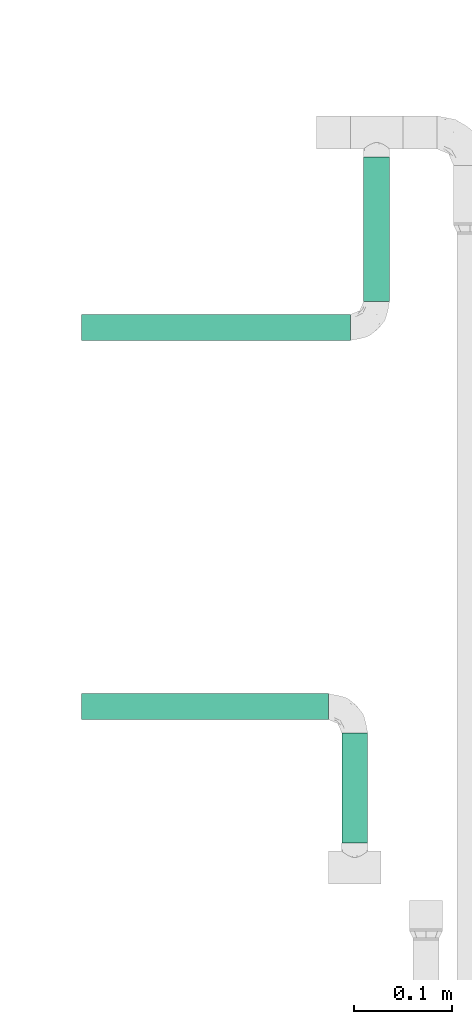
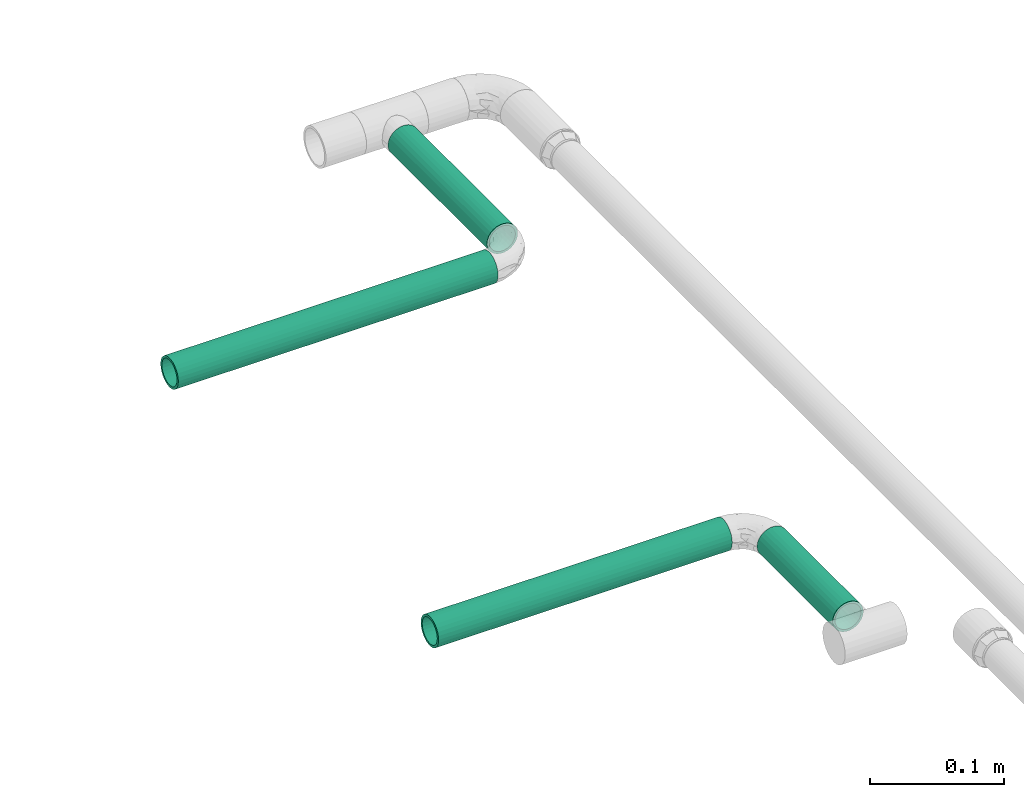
# One storey, part 3 of 13: 4 flow segments.
"""IFC2X3 building model written with IfcOpenShell, lengths in millimetres."""

from ifc_helpers import new_model, entity, si_unit, converted_unit, derived_unit, direction, frame, origin_with_axes, origin_2d_with_axis, place, context, subcontext, project, spatial, hollow_circle, extrude, source, transform, mapped, type_object, element, save


model = new_model("IFC2X3")

# Units and contexts
model_context = context("Model", 3, precision=0.01, world=frame((0.0, 4.29681676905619e-09, 0.0)), true_north=direction((4.01073788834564e-13, 1.0)))
plan_context = context("Plan", 3, precision=0.01, world=frame((0.0, 4.29681676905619e-09, 0.0)), true_north=direction((4.01073788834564e-13, 1.0)))
body_context = subcontext(model_context, "Body", "Model", "MODEL_VIEW")
ifc_project = project(units=[converted_unit("PLANEANGLEUNIT", "DEGREE", entity("IfcPositiveLengthMeasure", 0.0174532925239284), si_unit("PLANEANGLEUNIT", "RADIAN"), dimensions=[0, 0, 0, 0, 0, 0, 0]), si_unit("AREAUNIT", "SQUARE_METRE"), si_unit("LENGTHUNIT", "METRE", prefix="MILLI"), si_unit("MASSUNIT", "GRAM", prefix="KILO"), si_unit("POWERUNIT", "WATT"), si_unit("PRESSUREUNIT", "PASCAL", prefix="KILO"), si_unit("FORCEUNIT", "NEWTON", prefix="KILO"), si_unit("ELECTRICVOLTAGEUNIT", "VOLT"), si_unit("ELECTRICCURRENTUNIT", "AMPERE"), si_unit("THERMODYNAMICTEMPERATUREUNIT", "DEGREE_CELSIUS"), si_unit("TIMEUNIT", "SECOND"), si_unit("VOLUMEUNIT", "CUBIC_METRE"), derived_unit("LINEARVELOCITYUNIT", [(si_unit("LENGTHUNIT", "METRE"), 1), (si_unit("TIMEUNIT", "SECOND"), -1)]), derived_unit("VOLUMETRICFLOWRATEUNIT", [(si_unit("VOLUMEUNIT", "CUBIC_METRE"), 1), (si_unit("TIMEUNIT", "SECOND"), -1)]), derived_unit("THERMALTRANSMITTANCEUNIT", [(si_unit("POWERUNIT", "WATT"), 1), (si_unit("THERMODYNAMICTEMPERATUREUNIT", "KELVIN"), -1), (si_unit("AREAUNIT", "SQUARE_METRE"), -1)]), derived_unit("SOUNDPRESSUREUNIT", [(si_unit("PRESSUREUNIT", "PASCAL"), 1)])], contexts=[model_context, plan_context])

# Site, building, storey
site_placement = place(None, frame((0.0, -4.29681676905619e-09, 0.0), z_axis=(0.0, 0.0, 1.0), x_axis=(1.0, 0.0, 0.0)))
site = spatial("IfcSite", under=ifc_project, at=site_placement, Name="ENGM", CompositionType="ELEMENT")
building_placement = place(site_placement, frame((0.0, 4.29681676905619e-09, 0.0), z_axis=(0.0, 0.0, 1.0), x_axis=(1.0, 0.0, 0.0)))
building = spatial("IfcBuilding", under=site, at=building_placement, Name="TI", CompositionType="ELEMENT")
storey_placement = place(building_placement, frame((0.0, 0.0, 210900.0), z_axis=(0.0, 0.0, 1.0), x_axis=(1.0, 0.0, 0.0)))
storey = spatial("IfcBuildingStorey", under=building, at=storey_placement, Name="Nivå F", CompositionType="ELEMENT", Elevation=210900.0)

# Flow segments
pipe_segment_type = type_object("IfcPipeSegmentType", Name="Stålrør normaltykke", PredefinedType="RIGIDSEGMENT")
shared_shape_1 = source(origin_with_axes(), body_context, "Body", "SweptSolid", [
    extrude(hollow_circle(Radius=13.3, WallThickness=2.0, at=origin_2d_with_axis()), frame((0.0, 0.0, 0.0), z_axis=(1.0, 0.0, 0.0), x_axis=(0.0, 1.0, 0.0)), (0.0, 0.0, 1.0), 112.8),
])
flow_segment_1_placement = place(storey_placement, frame((598743.07776, 570748.59678, -48.6000000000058), z_axis=(0.0, 0.0, 1.0), x_axis=(0.0, 1.0, 0.0)))
element("IfcFlowSegment", 1, at=flow_segment_1_placement, inside=storey, type_object=pipe_segment_type, Name="Stålrør normaltykke", context=body_context, shape_type="MappedRepresentation", body=[
    mapped(shared_shape_1, transform((0.0, 0.0, 0.0), scale=1.0)),
])
shared_shape_2 = source(origin_with_axes(), body_context, "Body", "SweptSolid", [
    extrude(hollow_circle(Radius=13.3, WallThickness=2.0, at=origin_2d_with_axis()), frame((0.0, 0.0, 0.0), z_axis=(1.0, 0.0, 0.0), x_axis=(0.0, 1.0, 0.0)), (0.0, 0.0, 1.0), 253.2),
])
flow_segment_2_placement = place(storey_placement, frame((598716.27776, 570888.24678, -48.6000000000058), z_axis=(0.0, 0.0, 1.0), x_axis=(-1.0, 0.0, 0.0)))
element("IfcFlowSegment", 2, at=flow_segment_2_placement, inside=storey, type_object=pipe_segment_type, Name="Stålrør normaltykke", context=body_context, shape_type="MappedRepresentation", body=[
    mapped(shared_shape_2, transform((0.0, 0.0, 0.0), scale=1.0)),
])
shared_shape_3 = source(origin_with_axes(), body_context, "Body", "SweptSolid", [
    extrude(hollow_circle(Radius=13.3, WallThickness=2.0, at=origin_2d_with_axis()), frame((0.0, 0.0, 0.0), z_axis=(1.0, 0.0, 0.0), x_axis=(0.0, 1.0, 0.0)), (0.0, 0.0, 1.0), 147.8),
])
flow_segment_3_placement = place(storey_placement, frame((598765.57775, 571451.59171, -48.6000000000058), z_axis=(0.0, 0.0, 1.0), x_axis=(0.0, -1.0, 0.0)))
element("IfcFlowSegment", 3, at=flow_segment_3_placement, inside=storey, type_object=pipe_segment_type, Name="Stålrør normaltykke", context=body_context, shape_type="MappedRepresentation", body=[
    mapped(shared_shape_3, transform((0.0, 0.0, 0.0), scale=1.0)),
])
shared_shape_4 = source(origin_with_axes(), body_context, "Body", "SweptSolid", [
    extrude(hollow_circle(Radius=13.3, WallThickness=2.0, at=origin_2d_with_axis()), frame((0.0, 0.0, 0.0), z_axis=(1.0, 0.0, 0.0), x_axis=(0.0, 1.0, 0.0)), (0.0, 0.0, 1.0), 275.7),
])
flow_segment_4_placement = place(storey_placement, frame((598738.77776, 571276.94171, -48.6000000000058), z_axis=(0.0, 0.0, 1.0), x_axis=(-1.0, 0.0, 0.0)))
element("IfcFlowSegment", 4, at=flow_segment_4_placement, inside=storey, type_object=pipe_segment_type, Name="Stålrør normaltykke", context=body_context, shape_type="MappedRepresentation", body=[
    mapped(shared_shape_4, transform((0.0, 0.0, 0.0), scale=1.0)),
])

save(model, "model.ifc")
